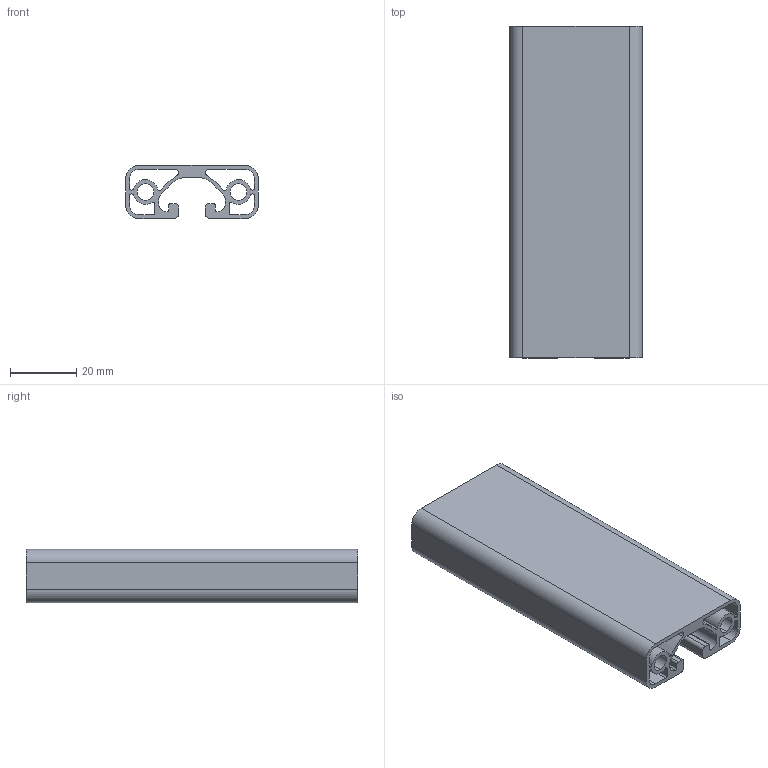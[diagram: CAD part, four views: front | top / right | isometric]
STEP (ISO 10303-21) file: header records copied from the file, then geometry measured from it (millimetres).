
FILE_DESCRIPTION (( 'STEP AP203' ), '1' );
FILE_NAME ('0108P4016E.STEP', '2024-02-29T06:58:06', ( 'Windows-Benutzer' ), ( '' ), 'SwSTEP 2.0', 'SolidWorks 2023', '' );
FILE_SCHEMA (( 'CONFIG_CONTROL_DESIGN' ));
Length unit declared in the file: millimetre
Products named in the file (1): 0108P4016E
Bounding box: 40 x 100 x 16 mm (x, y, z)
Volume: 24202.7 mm3; surface area: 31754 mm2
Topology: 1 solids, 1 shells, 84 faces, 246 edges, 164 vertices
Faces by surface type: cylinder 54, plane 30
Entity records: 2939 total; most frequent: DIRECTION 524, CARTESIAN_POINT 495, ORIENTED_EDGE 492, EDGE_CURVE 246, AXIS2_PLACEMENT_3D 193, VERTEX_POINT 164, VECTOR 138, LINE 138
